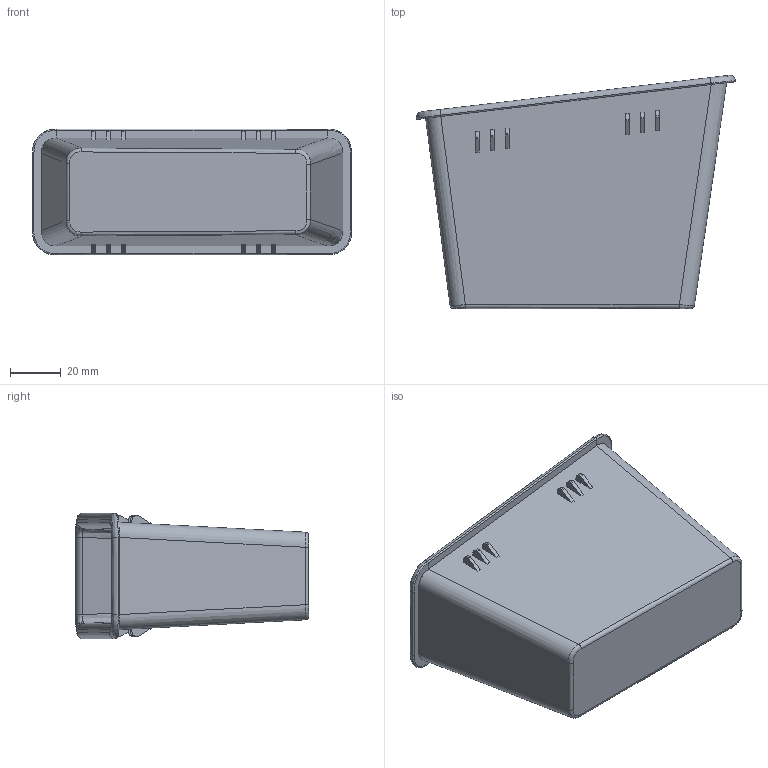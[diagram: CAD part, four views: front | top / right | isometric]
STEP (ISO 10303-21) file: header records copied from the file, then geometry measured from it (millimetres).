
FILE_DESCRIPTION(/* description */ (''),/* implementation_level */ '2;1');
FILE_NAME(/* name */ 'C:/Users/HP 5/Desktop/KP/Console bin V4.step',/* time_stamp */ '2018-06-06T09:22:52-04:00',/* author */ ('nawcmadefablab'),/* organization */ (''),/* preprocessor_version */ 'ST-DEVELOPER v17',/* originating_system */ 'Autodesk Translation Framework v7.1.0.215',/* authorisation */ '');
FILE_SCHEMA (('AUTOMOTIVE_DESIGN { 1 0 10303 214 3 1 1 }'));
Length unit declared in the file: millimetre
Products named in the file (1): Console bin 3 v1 v1
Bounding box: 125.81 x 91.95 x 49.61 mm (x, y, z)
Volume: 67749.9 mm3; surface area: 56611.1 mm2
Topology: 3 solids, 3 shells, 158 faces, 380 edges, 240 vertices
Faces by surface type: plane 90, bspline 52, cylinder 16
Entity records: 7198 total; most frequent: CARTESIAN_POINT 3804, ORIENTED_EDGE 760, DIRECTION 542, EDGE_CURVE 380, LINE 244, VECTOR 244, VERTEX_POINT 240, EDGE_LOOP 170
